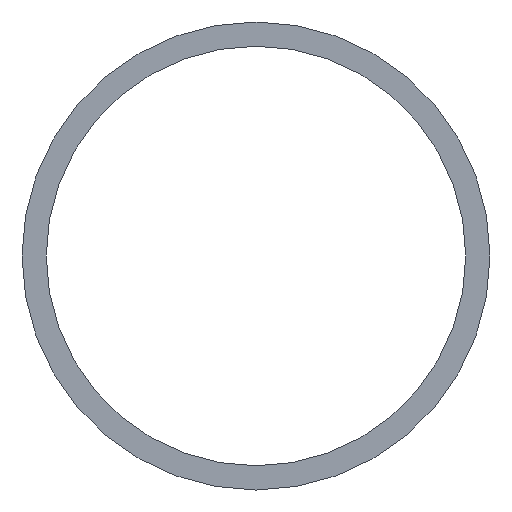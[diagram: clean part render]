
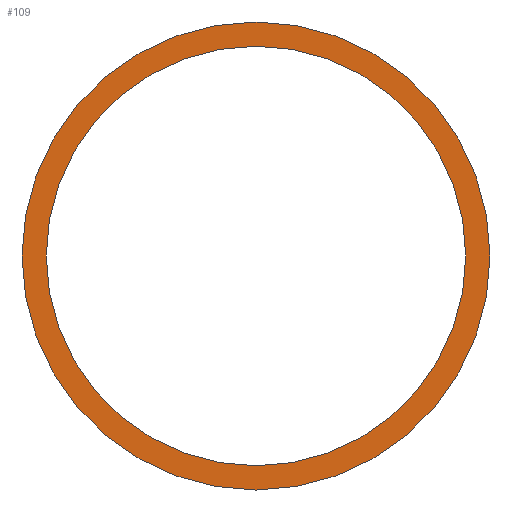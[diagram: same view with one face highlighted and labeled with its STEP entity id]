
A CAD part, front view. The second image highlights one B-rep face of the part: STEP entity #109.
In plain terms, the highlighted planar face has unit normal (0, -1, 0).
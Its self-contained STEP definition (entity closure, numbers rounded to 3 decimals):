
#2 = AXIS2_PLACEMENT_3D ( 'NONE', #81, #174, #163 ) ;
#7 = EDGE_LOOP ( 'NONE', ( #200, #120 ) ) ;
#13 = CARTESIAN_POINT ( 'NONE',  ( -109.15, 2042., 6275.85 ) ) ;
#18 = CIRCLE ( 'NONE', #69, 21.65 ) ;
#29 = CARTESIAN_POINT ( 'NONE',  ( -85., 2042., 6275.85 ) ) ;
#35 = EDGE_LOOP ( 'NONE', ( #138, #186 ) ) ;
#42 = CIRCLE ( 'NONE', #47, 24.15 ) ;
#46 = DIRECTION ( 'NONE',  ( -1., 0., 0. ) ) ;
#47 = AXIS2_PLACEMENT_3D ( 'NONE', #191, #78, #61 ) ;
#54 = CARTESIAN_POINT ( 'NONE',  ( -85., 2042., 6275.85 ) ) ;
#56 = CIRCLE ( 'NONE', #173, 24.15 ) ;
#58 = VERTEX_POINT ( 'NONE', #101 ) ;
#61 = DIRECTION ( 'NONE',  ( -1., 0., 0. ) ) ;
#67 = CARTESIAN_POINT ( 'NONE',  ( -63.35, 2042., 6275.85 ) ) ;
#68 = DIRECTION ( 'NONE',  ( 0., 1., 0. ) ) ;
#69 = AXIS2_PLACEMENT_3D ( 'NONE', #90, #146, #141 ) ;
#78 = DIRECTION ( 'NONE',  ( 0., 1., 0. ) ) ;
#81 = CARTESIAN_POINT ( 'NONE',  ( -85., 2042., 6275.85 ) ) ;
#85 = EDGE_CURVE ( 'NONE', #203, #87, #151, .T. ) ;
#87 = VERTEX_POINT ( 'NONE', #121 ) ;
#89 = DIRECTION ( 'NONE',  ( 0., 1., 0. ) ) ;
#90 = CARTESIAN_POINT ( 'NONE',  ( -85., 2042., 6275.85 ) ) ;
#101 = CARTESIAN_POINT ( 'NONE',  ( -60.85, 2042., 6275.85 ) ) ;
#109 = ADVANCED_FACE ( 'NONE', ( #130, #134 ), #110, .F. ) ;
#110 = PLANE ( 'NONE',  #2 ) ;
#120 = ORIENTED_EDGE ( 'NONE', *, *, #184, .F. ) ;
#121 = CARTESIAN_POINT ( 'NONE',  ( -106.65, 2042., 6275.85 ) ) ;
#130 = FACE_BOUND ( 'NONE', #35, .T. ) ;
#134 = FACE_OUTER_BOUND ( 'NONE', #7, .T. ) ;
#138 = ORIENTED_EDGE ( 'NONE', *, *, #161, .T. ) ;
#141 = DIRECTION ( 'NONE',  ( -1., 0., 0. ) ) ;
#146 = DIRECTION ( 'NONE',  ( 0., 1., 0. ) ) ;
#148 = AXIS2_PLACEMENT_3D ( 'NONE', #54, #89, #153 ) ;
#151 = CIRCLE ( 'NONE', #148, 21.65 ) ;
#153 = DIRECTION ( 'NONE',  ( -1., 0., 0. ) ) ;
#156 = VERTEX_POINT ( 'NONE', #13 ) ;
#161 = EDGE_CURVE ( 'NONE', #87, #203, #18, .T. ) ;
#163 = DIRECTION ( 'NONE',  ( 0., 0., 1. ) ) ;
#173 = AXIS2_PLACEMENT_3D ( 'NONE', #29, #68, #46 ) ;
#174 = DIRECTION ( 'NONE',  ( 0., 1., 0. ) ) ;
#184 = EDGE_CURVE ( 'NONE', #58, #156, #42, .T. ) ;
#186 = ORIENTED_EDGE ( 'NONE', *, *, #85, .T. ) ;
#191 = CARTESIAN_POINT ( 'NONE',  ( -85., 2042., 6275.85 ) ) ;
#200 = ORIENTED_EDGE ( 'NONE', *, *, #212, .F. ) ;
#203 = VERTEX_POINT ( 'NONE', #67 ) ;
#212 = EDGE_CURVE ( 'NONE', #156, #58, #56, .T. ) ;
